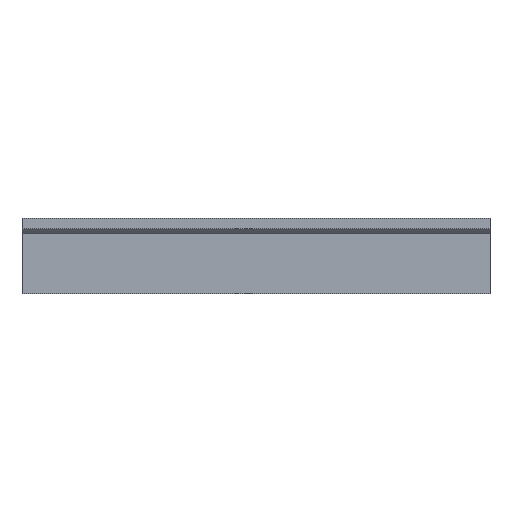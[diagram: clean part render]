
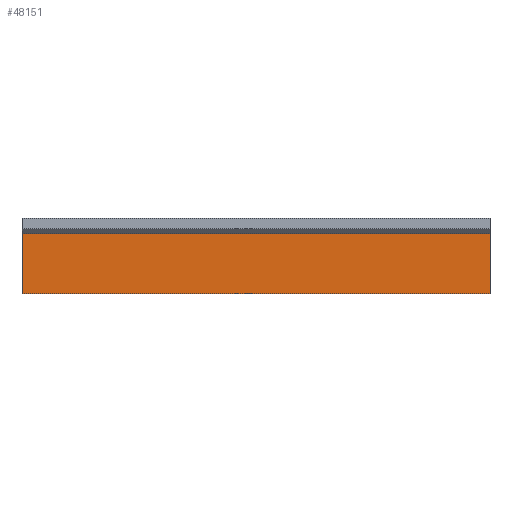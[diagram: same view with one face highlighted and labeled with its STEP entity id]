
A CAD part, left-side view. The second image highlights one B-rep face of the part: STEP entity #48151.
In plain terms, the highlighted planar face has unit normal (-1, 0, 0).
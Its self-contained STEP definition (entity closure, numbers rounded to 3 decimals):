
#32 = PLANE('',#33);
#33 = AXIS2_PLACEMENT_3D('',#34,#35,#36);
#34 = CARTESIAN_POINT('',(-200.,-101.,-1.));
#35 = DIRECTION('',(-0.,1.,0.));
#36 = DIRECTION('',(0.,0.,1.));
#844 = PLANE('',#845);
#845 = AXIS2_PLACEMENT_3D('',#846,#847,#848);
#846 = CARTESIAN_POINT('',(0.,-2.673,0.));
#847 = DIRECTION('',(0.,0.,1.));
#848 = DIRECTION('',(1.,0.,-0.));
#941 = VERTEX_POINT('',#942);
#942 = CARTESIAN_POINT('',(-192.,-101.,0.));
#963 = EDGE_CURVE('',#964,#941,#966,.T.);
#964 = VERTEX_POINT('',#965);
#965 = CARTESIAN_POINT('',(-192.,-101.,25.9));
#966 = SURFACE_CURVE('',#967,(#971,#978),.PCURVE_S1.);
#967 = LINE('',#968,#969);
#968 = CARTESIAN_POINT('',(-192.,-101.,-0.5));
#969 = VECTOR('',#970,1.);
#970 = DIRECTION('',(-0.,0.,-1.));
#971 = PCURVE('',#32,#972);
#972 = DEFINITIONAL_REPRESENTATION('',(#973),#977);
#973 = LINE('',#974,#975);
#974 = CARTESIAN_POINT('',(0.5,8.));
#975 = VECTOR('',#976,1.);
#976 = DIRECTION('',(-1.,0.));
#977 = ( GEOMETRIC_REPRESENTATION_CONTEXT(2) 
PARAMETRIC_REPRESENTATION_CONTEXT() REPRESENTATION_CONTEXT('2D SPACE',''
  ) );
#978 = PCURVE('',#979,#984);
#979 = PLANE('',#980);
#980 = AXIS2_PLACEMENT_3D('',#981,#982,#983);
#981 = CARTESIAN_POINT('',(-192.,152.,0.));
#982 = DIRECTION('',(1.,0.,-0.));
#983 = DIRECTION('',(0.,-1.,0.));
#984 = DEFINITIONAL_REPRESENTATION('',(#985),#989);
#985 = LINE('',#986,#987);
#986 = CARTESIAN_POINT('',(253.,0.5));
#987 = VECTOR('',#988,1.);
#988 = DIRECTION('',(-0.,1.));
#989 = ( GEOMETRIC_REPRESENTATION_CONTEXT(2) 
PARAMETRIC_REPRESENTATION_CONTEXT() REPRESENTATION_CONTEXT('2D SPACE',''
  ) );
#1009 = B_SPLINE_SURFACE_WITH_KNOTS('',1,1,(
    (#1010,#1011)
    ,(#1012,#1013
    )),.UNSPECIFIED.,.F.,.F.,.F.,(2,2),(2,2),(0.,330.1),(0.,1.),
  .PIECEWISE_BEZIER_KNOTS.);
#1010 = CARTESIAN_POINT('',(-192.,152.,25.9));
#1011 = CARTESIAN_POINT('',(-194.1,152.,28.));
#1012 = CARTESIAN_POINT('',(-192.,-176.,25.9));
#1013 = CARTESIAN_POINT('',(-194.1,-178.1,28.));
#1027 = VERTEX_POINT('',#1028);
#1028 = CARTESIAN_POINT('',(-192.,101.,25.9));
#1048 = PLANE('',#1049);
#1049 = AXIS2_PLACEMENT_3D('',#1050,#1051,#1052);
#1050 = CARTESIAN_POINT('',(-200.,101.,-1.));
#1051 = DIRECTION('',(-0.,1.,0.));
#1052 = DIRECTION('',(0.,0.,1.));
#1062 = EDGE_CURVE('',#1027,#964,#1063,.T.);
#1063 = SURFACE_CURVE('',#1064,(#1068,#1074),.PCURVE_S1.);
#1064 = LINE('',#1065,#1066);
#1065 = CARTESIAN_POINT('',(-192.,152.,25.9));
#1066 = VECTOR('',#1067,1.);
#1067 = DIRECTION('',(0.,-1.,0.));
#1068 = PCURVE('',#1009,#1069);
#1069 = DEFINITIONAL_REPRESENTATION('',(#1070),#1073);
#1070 = B_SPLINE_CURVE_WITH_KNOTS('',1,(#1071,#1072),.UNSPECIFIED.,.F.,
  .F.,(2,2),(0.,328.),.PIECEWISE_BEZIER_KNOTS.);
#1071 = CARTESIAN_POINT('',(0.,0.));
#1072 = CARTESIAN_POINT('',(330.1,0.));
#1073 = ( GEOMETRIC_REPRESENTATION_CONTEXT(2) 
PARAMETRIC_REPRESENTATION_CONTEXT() REPRESENTATION_CONTEXT('2D SPACE',''
  ) );
#1074 = PCURVE('',#979,#1075);
#1075 = DEFINITIONAL_REPRESENTATION('',(#1076),#1080);
#1076 = LINE('',#1077,#1078);
#1077 = CARTESIAN_POINT('',(0.,-25.9));
#1078 = VECTOR('',#1079,1.);
#1079 = DIRECTION('',(1.,0.));
#1080 = ( GEOMETRIC_REPRESENTATION_CONTEXT(2) 
PARAMETRIC_REPRESENTATION_CONTEXT() REPRESENTATION_CONTEXT('2D SPACE',''
  ) );
#1944 = VERTEX_POINT('',#1945);
#1945 = CARTESIAN_POINT('',(-192.,101.,0.));
#1966 = EDGE_CURVE('',#1027,#1944,#1967,.T.);
#1967 = SURFACE_CURVE('',#1968,(#1972,#1979),.PCURVE_S1.);
#1968 = LINE('',#1969,#1970);
#1969 = CARTESIAN_POINT('',(-192.,101.,-0.5));
#1970 = VECTOR('',#1971,1.);
#1971 = DIRECTION('',(-0.,0.,-1.));
#1972 = PCURVE('',#1048,#1973);
#1973 = DEFINITIONAL_REPRESENTATION('',(#1974),#1978);
#1974 = LINE('',#1975,#1976);
#1975 = CARTESIAN_POINT('',(0.5,8.));
#1976 = VECTOR('',#1977,1.);
#1977 = DIRECTION('',(-1.,0.));
#1978 = ( GEOMETRIC_REPRESENTATION_CONTEXT(2) 
PARAMETRIC_REPRESENTATION_CONTEXT() REPRESENTATION_CONTEXT('2D SPACE',''
  ) );
#1979 = PCURVE('',#979,#1980);
#1980 = DEFINITIONAL_REPRESENTATION('',(#1981),#1985);
#1981 = LINE('',#1982,#1983);
#1982 = CARTESIAN_POINT('',(51.,0.5));
#1983 = VECTOR('',#1984,1.);
#1984 = DIRECTION('',(-0.,1.));
#1985 = ( GEOMETRIC_REPRESENTATION_CONTEXT(2) 
PARAMETRIC_REPRESENTATION_CONTEXT() REPRESENTATION_CONTEXT('2D SPACE',''
  ) );
#48151 = ADVANCED_FACE('',(#48152),#979,.F.);
#48152 = FACE_BOUND('',#48153,.F.);
#48153 = EDGE_LOOP('',(#48154,#48175,#48176,#48177));
#48154 = ORIENTED_EDGE('',*,*,#48155,.F.);
#48155 = EDGE_CURVE('',#1944,#941,#48156,.T.);
#48156 = SURFACE_CURVE('',#48157,(#48161,#48168),.PCURVE_S1.);
#48157 = LINE('',#48158,#48159);
#48158 = CARTESIAN_POINT('',(-192.,152.,0.));
#48159 = VECTOR('',#48160,1.);
#48160 = DIRECTION('',(0.,-1.,0.));
#48161 = PCURVE('',#979,#48162);
#48162 = DEFINITIONAL_REPRESENTATION('',(#48163),#48167);
#48163 = LINE('',#48164,#48165);
#48164 = CARTESIAN_POINT('',(0.,0.));
#48165 = VECTOR('',#48166,1.);
#48166 = DIRECTION('',(1.,0.));
#48167 = ( GEOMETRIC_REPRESENTATION_CONTEXT(2) 
PARAMETRIC_REPRESENTATION_CONTEXT() REPRESENTATION_CONTEXT('2D SPACE',''
  ) );
#48168 = PCURVE('',#844,#48169);
#48169 = DEFINITIONAL_REPRESENTATION('',(#48170),#48174);
#48170 = LINE('',#48171,#48172);
#48171 = CARTESIAN_POINT('',(-192.,154.673));
#48172 = VECTOR('',#48173,1.);
#48173 = DIRECTION('',(0.,-1.));
#48174 = ( GEOMETRIC_REPRESENTATION_CONTEXT(2) 
PARAMETRIC_REPRESENTATION_CONTEXT() REPRESENTATION_CONTEXT('2D SPACE',''
  ) );
#48175 = ORIENTED_EDGE('',*,*,#1966,.F.);
#48176 = ORIENTED_EDGE('',*,*,#1062,.T.);
#48177 = ORIENTED_EDGE('',*,*,#963,.T.);
